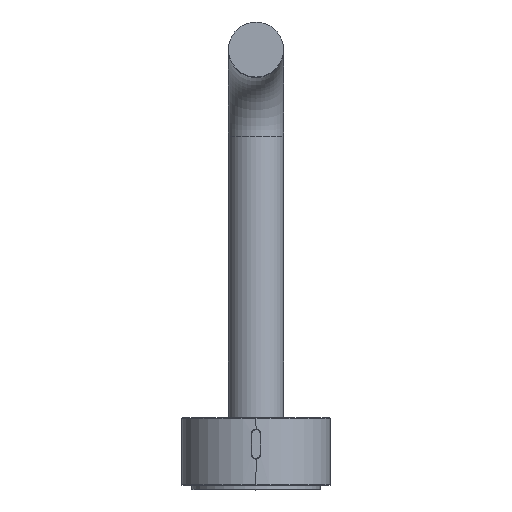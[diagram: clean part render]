
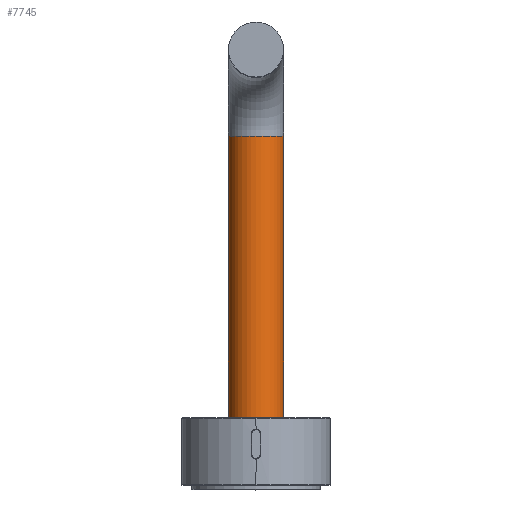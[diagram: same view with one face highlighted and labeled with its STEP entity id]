
A CAD part, top view. The second image highlights one B-rep face of the part: STEP entity #7745.
In plain terms, the highlighted cylindrical face has radius 12 mm (diameter 24 mm), a partial arc.
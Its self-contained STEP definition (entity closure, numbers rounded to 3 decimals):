
#6567=DIRECTION('',(0.,-1.,0.));
#6568=VECTOR('',#6567,122.5);
#6569=CARTESIAN_POINT('',(12.,154.2,0.));
#6570=LINE('',#6569,#6568);
#6571=DIRECTION('',(0.,-1.,0.));
#6572=VECTOR('',#6571,122.5);
#6573=CARTESIAN_POINT('',(-12.,154.2,0.));
#6574=LINE('',#6573,#6572);
#6580=CARTESIAN_POINT('',(0.,31.7,0.));
#6581=DIRECTION('',(0.,-1.,0.));
#6582=DIRECTION('',(1.,0.,0.));
#6583=AXIS2_PLACEMENT_3D('',#6580,#6581,#6582);
#6930=CARTESIAN_POINT('',(0.,154.2,0.));
#6931=DIRECTION('',(0.,-1.,0.));
#6932=DIRECTION('',(1.,0.,0.));
#6933=AXIS2_PLACEMENT_3D('',#6930,#6931,#6932);
#6963=CARTESIAN_POINT('',(12.,154.2,0.));
#6965=VERTEX_POINT('',#6963);
#6971=CARTESIAN_POINT('',(-12.,154.2,0.));
#6972=VERTEX_POINT('',#6971);
#7015=CARTESIAN_POINT('',(12.,31.7,0.));
#7016=VERTEX_POINT('',#7015);
#7017=CARTESIAN_POINT('',(-12.,31.7,0.));
#7018=VERTEX_POINT('',#7017);
#7732=CARTESIAN_POINT('',(0.,31.7,0.));
#7733=DIRECTION('',(0.,-1.,0.));
#7734=DIRECTION('',(-1.,0.,0.));
#7735=AXIS2_PLACEMENT_3D('',#7732,#7733,#7734);
#7736=CYLINDRICAL_SURFACE('',#7735,12.);
#7737=ORIENTED_EDGE('',*,*,#7715,.T.);
#7739=ORIENTED_EDGE('',*,*,#7738,.T.);
#7740=ORIENTED_EDGE('',*,*,#7718,.F.);
#7742=ORIENTED_EDGE('',*,*,#7741,.F.);
#7743=EDGE_LOOP('',(#7737,#7739,#7740,#7742));
#7744=FACE_OUTER_BOUND('',#7743,.F.);
#6584=CIRCLE('',#6583,12.);
#6934=CIRCLE('',#6933,12.);
#7715=EDGE_CURVE('',#6965,#7016,#6570,.T.);
#7718=EDGE_CURVE('',#6972,#7018,#6574,.T.);
#7738=EDGE_CURVE('',#7016,#7018,#6584,.T.);
#7741=EDGE_CURVE('',#6965,#6972,#6934,.T.);
#7745=ADVANCED_FACE('',(#7744),#7736,.T.);
